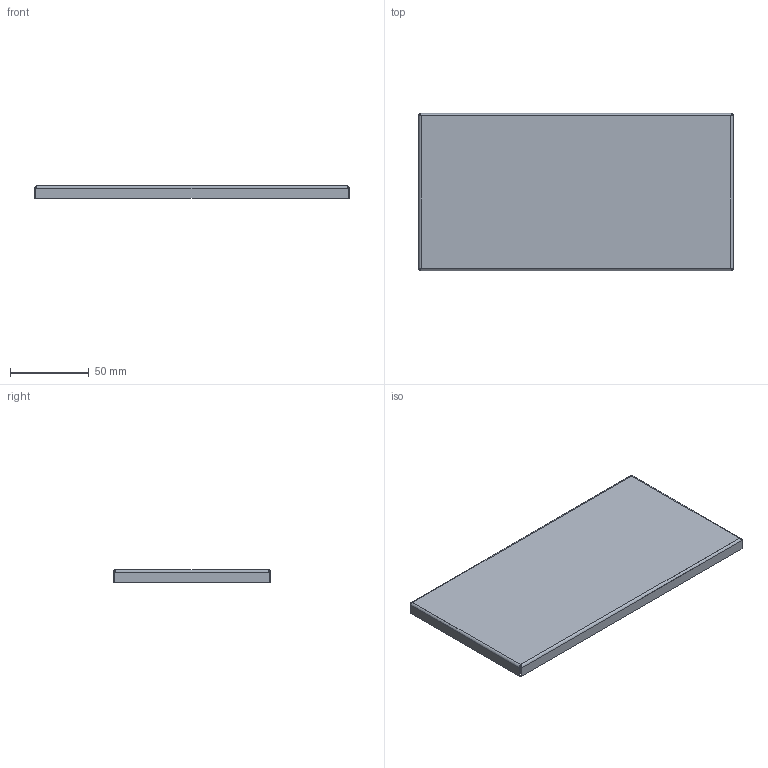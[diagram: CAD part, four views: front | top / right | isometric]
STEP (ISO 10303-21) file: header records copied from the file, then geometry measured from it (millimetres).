
FILE_DESCRIPTION(/* description */ ('-'),/* implementation_level */ '2;1');
FILE_NAME(/* name */ 'Decor_100x200.step',/* time_stamp */ '2025-01-27T18:45:32+01:00',/* author */ ('Jarosław Sierota'),/* organization */ ('JS'),/* preprocessor_version */ 'ST-DEVELOPER v20',/* originating_system */ 'Autodesk Inventor 2025',/* authorisation */ 'Jarosław Sierota');
FILE_SCHEMA (('AUTOMOTIVE_DESIGN { 1 0 10303 214 3 1 1 }'));
Length unit declared in the file: millimetre
Products named in the file (1): Decor_100x100
Bounding box: 200 x 100 x 8 mm (x, y, z)
Volume: 13726.4 mm3; surface area: 48541.9 mm2
Topology: 1 solids, 1 shells, 38 faces, 76 edges, 40 vertices
Faces by surface type: plane 22, bspline 8, cylinder 8
Entity records: 1399 total; most frequent: CARTESIAN_POINT 643, ORIENTED_EDGE 152, DIRECTION 122, EDGE_CURVE 76, LINE 60, VECTOR 60, VERTEX_POINT 40, FACE_OUTER_BOUND 38
